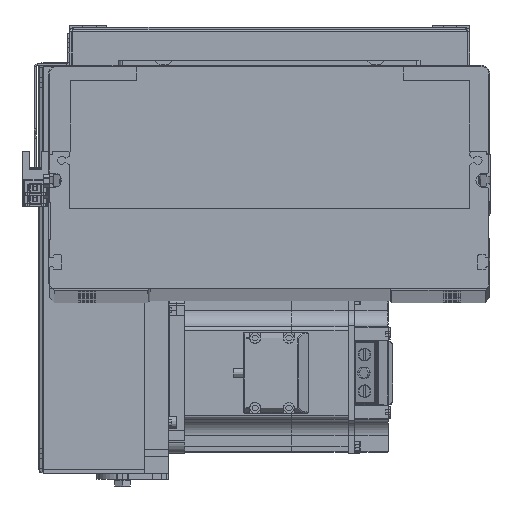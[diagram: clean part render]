
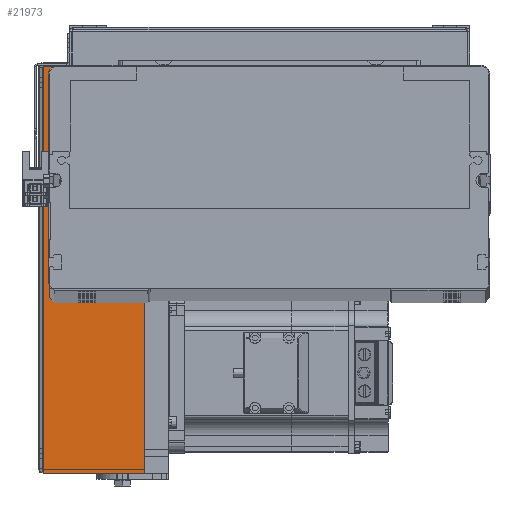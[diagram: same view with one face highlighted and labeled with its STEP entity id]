
A CAD part, top view. The second image highlights one B-rep face of the part: STEP entity #21973.
In plain terms, the highlighted planar face has unit normal (0, 0, 1) as drawn and (0, -1, 0) by its records, which use the part's own axes.
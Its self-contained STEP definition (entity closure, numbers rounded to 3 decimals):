
#60 = CARTESIAN_POINT ( 'NONE',  ( 102.5, -54., 62.7 ) ) ;
#557 = VECTOR ( 'NONE', #18933, 1000. ) ;
#3001 = DIRECTION ( 'NONE',  ( 0., 0., -1. ) ) ;
#5281 = ORIENTED_EDGE ( 'NONE', *, *, #43202, .F. ) ;
#5488 = VECTOR ( 'NONE', #37955, 1000. ) ;
#6799 = PLANE ( 'NONE',  #25836 ) ;
#7969 = VERTEX_POINT ( 'NONE', #22259 ) ;
#9843 = VERTEX_POINT ( 'NONE', #60 ) ;
#14195 = VECTOR ( 'NONE', #21642, 1000. ) ;
#14708 = EDGE_CURVE ( 'NONE', #9843, #7969, #18213, .T. ) ;
#16259 = EDGE_CURVE ( 'NONE', #44447, #7969, #35176, .T. ) ;
#16507 = CARTESIAN_POINT ( 'NONE',  ( -102.5, -54., 62.7 ) ) ;
#18213 = LINE ( 'NONE', #50459, #5488 ) ;
#18933 = DIRECTION ( 'NONE',  ( 1., 0., 0. ) ) ;
#20065 = CARTESIAN_POINT ( 'NONE',  ( -102.5, -54., 12. ) ) ;
#21642 = DIRECTION ( 'NONE',  ( 1., 0., 0. ) ) ;
#21952 = VECTOR ( 'NONE', #31701, 1000. ) ;
#21973 = ADVANCED_FACE ( 'NONE', ( #43326 ), #6799, .F. ) ;
#22259 = CARTESIAN_POINT ( 'NONE',  ( 102.5, -54., 12. ) ) ;
#22983 = CARTESIAN_POINT ( 'NONE',  ( 0., -54., 12. ) ) ;
#23082 = CARTESIAN_POINT ( 'NONE',  ( 0., -54., 63. ) ) ;
#25005 = ORIENTED_EDGE ( 'NONE', *, *, #16259, .T. ) ;
#25651 = LINE ( 'NONE', #41907, #14195 ) ;
#25836 = AXIS2_PLACEMENT_3D ( 'NONE', #23082, #52070, #3001 ) ;
#31701 = DIRECTION ( 'NONE',  ( 0., 0., -1. ) ) ;
#32496 = LINE ( 'NONE', #16507, #21952 ) ;
#35176 = LINE ( 'NONE', #22983, #557 ) ;
#37955 = DIRECTION ( 'NONE',  ( 0., 0., -1. ) ) ;
#41907 = CARTESIAN_POINT ( 'NONE',  ( 102.5, -54., 62.7 ) ) ;
#41957 = CARTESIAN_POINT ( 'NONE',  ( -102.5, -54., 62.7 ) ) ;
#42729 = ORIENTED_EDGE ( 'NONE', *, *, #14708, .F. ) ;
#43104 = ORIENTED_EDGE ( 'NONE', *, *, #43492, .T. ) ;
#43202 = EDGE_CURVE ( 'NONE', #46269, #9843, #25651, .T. ) ;
#43326 = FACE_OUTER_BOUND ( 'NONE', #50248, .T. ) ;
#43492 = EDGE_CURVE ( 'NONE', #46269, #44447, #32496, .T. ) ;
#44447 = VERTEX_POINT ( 'NONE', #20065 ) ;
#46269 = VERTEX_POINT ( 'NONE', #41957 ) ;
#50248 = EDGE_LOOP ( 'NONE', ( #5281, #43104, #25005, #42729 ) ) ;
#50459 = CARTESIAN_POINT ( 'NONE',  ( 102.5, -54., 62.7 ) ) ;
#52070 = DIRECTION ( 'NONE',  ( 0., 1., 0. ) ) ;
